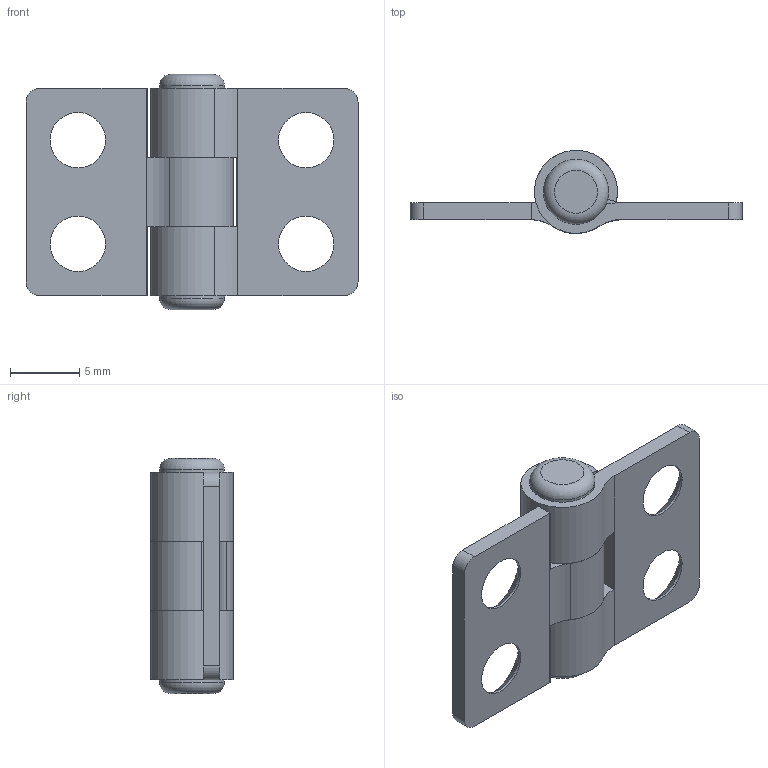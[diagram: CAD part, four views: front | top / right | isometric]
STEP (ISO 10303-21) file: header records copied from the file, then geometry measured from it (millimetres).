
FILE_DESCRIPTION(/* description */ (''),/* implementation_level */ '2;1');
FILE_NAME(/* name */ '\\NAS\db20\HD1524-12\DR_HD1524-12.stp',/* time_stamp */ '2017-08-10T14:21:19+09:00',/* author */ ('user'),/* organization */ (''),/* preprocessor_version */ 'ST-DEVELOPER v15.6',/* originating_system */ 'Autodesk Inventor 2015',/* authorisation */ '');
FILE_SCHEMA (('AUTOMOTIVE_DESIGN { 1 0 10303 214 3 1 1 }'));
Length unit declared in the file: millimetre
Products named in the file (1): DR_HD1524-12
Bounding box: 24 x 5.98 x 17 mm (x, y, z)
Volume: 685.1 mm3; surface area: 1379.2 mm2
Topology: 3 solids, 3 shells, 52 faces, 130 edges, 86 vertices
Faces by surface type: plane 24, cylinder 22, cone 4, torus 2
Full cylindrical faces by diameter (mm): 3.6 x1, 4 x4, 4.7 x2
Entity records: 1509 total; most frequent: DIRECTION 273, CARTESIAN_POINT 248, ORIENTED_EDGE 226, EDGE_CURVE 113, AXIS2_PLACEMENT_3D 107, VERTEX_POINT 82, EDGE_LOOP 75, LINE 59
